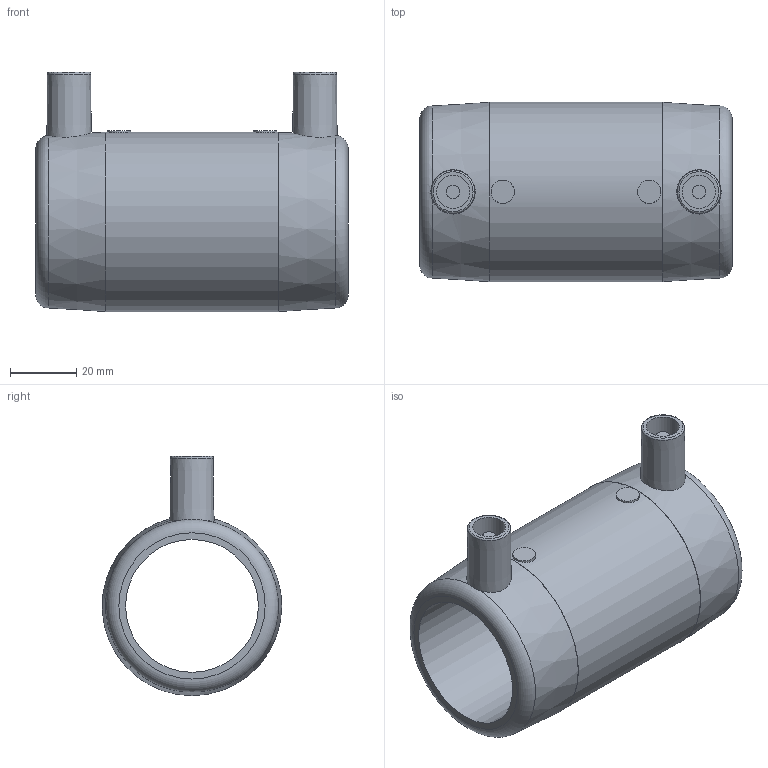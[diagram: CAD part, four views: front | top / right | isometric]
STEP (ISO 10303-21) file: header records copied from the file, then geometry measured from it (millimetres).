
FILE_DESCRIPTION(/* description */ ('Unknown'),/* implementation_level */ '2;1');
FILE_NAME(/* name */ 'MP040H',/* time_stamp */ '2021-05-26T17:19:23+02:00',/* author */ ('Unknown'),/* organization */ ('Unknown'),/* preprocessor_version */ 'ST-DEVELOPER v16.7',/* originating_system */ 'Solid Edge',/* authorisation */ 'Unknown');
FILE_SCHEMA (('AUTOMOTIVE_DESIGN {1 0 10303 214 3 1 1}'));
Length unit declared in the file: millimetre
Products named in the file (1): MP040H
Bounding box: 94 x 54 x 72 mm (x, y, z)
Volume: 95182.8 mm3; surface area: 31496.1 mm2
Topology: 1 solids, 1 shells, 28 faces, 58 edges, 38 vertices
Faces by surface type: plane 10, cylinder 8, torus 6, cone 4
Full cylindrical faces by diameter (mm): 4 x2, 7 x2, 10 x2, 40 x1, 54 x1
Entity records: 647 total; most frequent: CARTESIAN_POINT 142, DIRECTION 106, ORIENTED_EDGE 60, EDGE_LOOP 54, FACE_BOUND 54, AXIS2_PLACEMENT_3D 53, EDGE_CURVE 30, VERTEX_POINT 28
